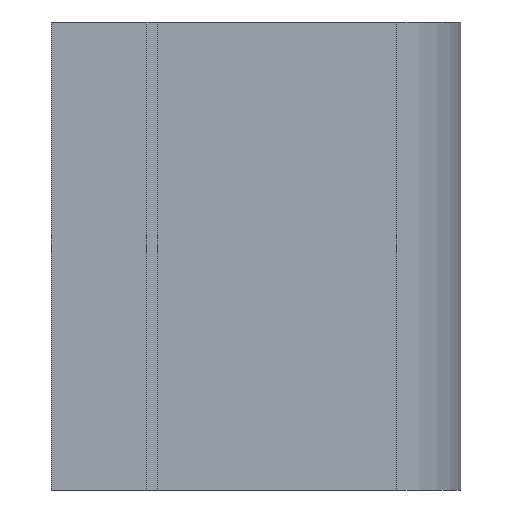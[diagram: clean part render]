
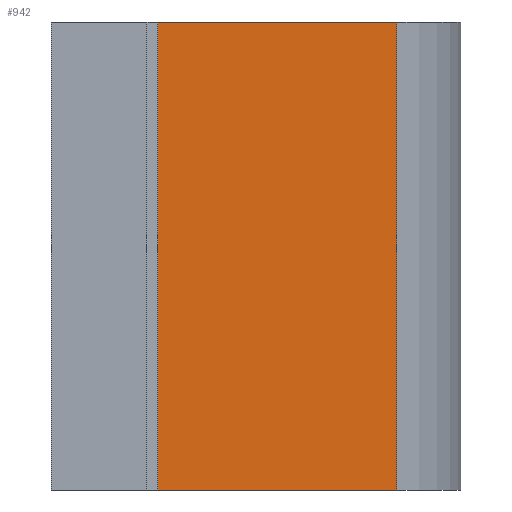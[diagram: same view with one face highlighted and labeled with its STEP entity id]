
A CAD part, left-side view. The second image highlights one B-rep face of the part: STEP entity #942.
In plain terms, the highlighted planar face has unit normal (-1, 0, 0).
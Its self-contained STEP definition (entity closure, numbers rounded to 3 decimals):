
#706=CARTESIAN_POINT('',(-24.709,-9.302,-3.5));
#707=VERTEX_POINT('',#706);
#714=CARTESIAN_POINT('',(-24.709,13.198,-3.5));
#715=VERTEX_POINT('',#714);
#716=CARTESIAN_POINT('',(-24.709,13.198,-3.5));
#717=DIRECTION('',(0.0,-1.0,0.0));
#718=VECTOR('',#717,22.5);
#719=LINE('',#716,#718);
#720=EDGE_CURVE('',#715,#707,#719,.T.);
#892=CARTESIAN_POINT('',(-24.709,-9.302,40.5));
#893=VERTEX_POINT('',#892);
#900=CARTESIAN_POINT('',(-24.709,-9.302,40.5));
#901=DIRECTION('',(0.0,0.0,-1.0));
#902=VECTOR('',#901,44.);
#903=LINE('',#900,#902);
#904=EDGE_CURVE('',#893,#707,#903,.T.);
#919=CARTESIAN_POINT('',(-24.709,-9.302,18.5));
#920=DIRECTION('',(-1.0,0.0,0.0));
#921=DIRECTION('',(0.0,0.0,1.0));
#922=AXIS2_PLACEMENT_3D('',#919,#920,#921);
#923=PLANE('',#922);
#924=CARTESIAN_POINT('',(-24.709,13.198,40.5));
#925=VERTEX_POINT('',#924);
#926=CARTESIAN_POINT('',(-24.709,-9.302,40.5));
#927=DIRECTION('',(0.0,1.0,0.0));
#928=VECTOR('',#927,22.5);
#929=LINE('',#926,#928);
#930=EDGE_CURVE('',#893,#925,#929,.T.);
#931=ORIENTED_EDGE('',*,*,#930,.T.);
#932=CARTESIAN_POINT('',(-24.709,13.198,40.5));
#933=DIRECTION('',(0.0,0.0,-1.0));
#934=VECTOR('',#933,44.);
#935=LINE('',#932,#934);
#936=EDGE_CURVE('',#925,#715,#935,.T.);
#937=ORIENTED_EDGE('',*,*,#936,.T.);
#938=ORIENTED_EDGE('',*,*,#720,.T.);
#939=ORIENTED_EDGE('',*,*,#904,.F.);
#940=EDGE_LOOP('',(#931,#937,#938,#939));
#941=FACE_OUTER_BOUND('',#940,.T.);
#942=ADVANCED_FACE('',(#941),#923,.T.);
